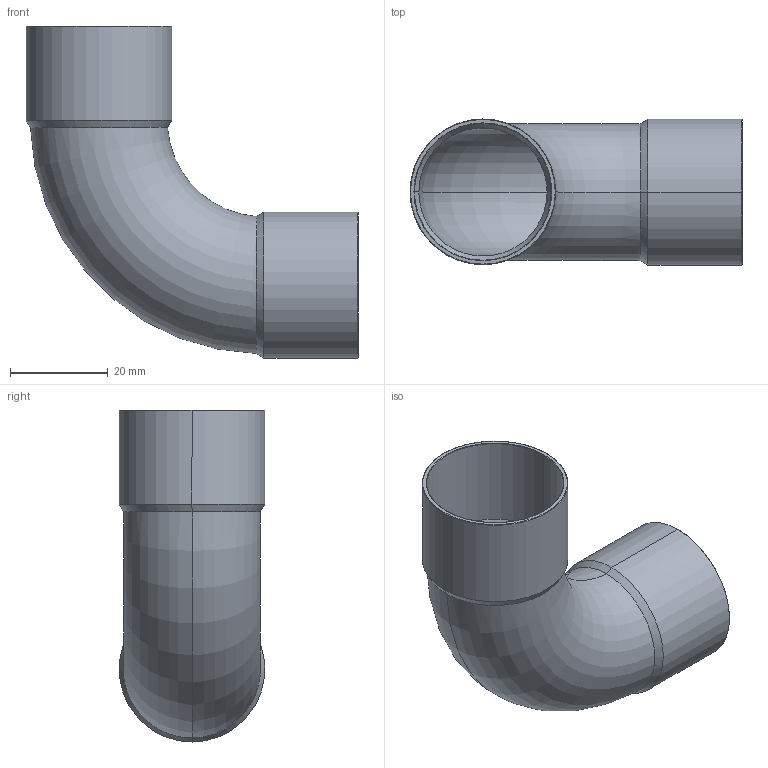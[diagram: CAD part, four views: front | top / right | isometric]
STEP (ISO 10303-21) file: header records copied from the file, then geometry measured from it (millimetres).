
FILE_DESCRIPTION((''),'2;1');
FILE_NAME('D:\5002\15002a28.stp','2005-10-04T11:36:49',('Kris'),(''),'Autodesk Inventor 8','Autodesk Inventor 8','');
FILE_SCHEMA(('AUTOMOTIVE_DESIGN { 1 0 10303 214 1 1 1 1 }'));
Length unit declared in the file: millimetre
Products named in the file (1): 15002a28
Bounding box: 67.9 x 29.8 x 67.9 mm (x, y, z)
Volume: 7255.6 mm3; surface area: 16269.5 mm2
Topology: 1 solids, 1 shells, 30 faces, 60 edges, 32 vertices
Faces by surface type: cone 12, bspline 9, torus 4, cylinder 4, plane 1
Entity records: 1027 total; most frequent: CARTESIAN_POINT 414, DIRECTION 124, ORIENTED_EDGE 120, EDGE_CURVE 60, AXIS2_PLACEMENT_3D 50, VERTEX_POINT 32, EDGE_LOOP 32, FACE_OUTER_BOUND 30
